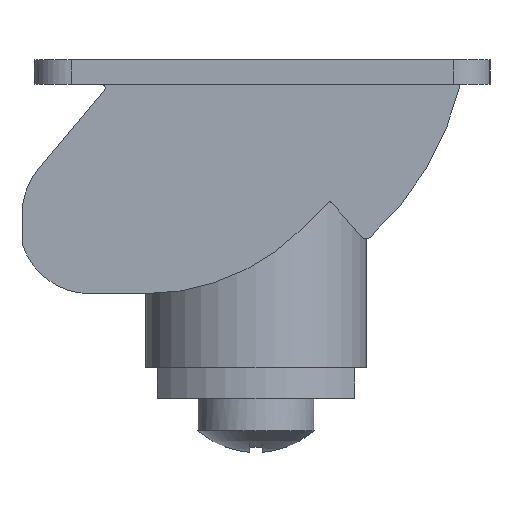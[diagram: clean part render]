
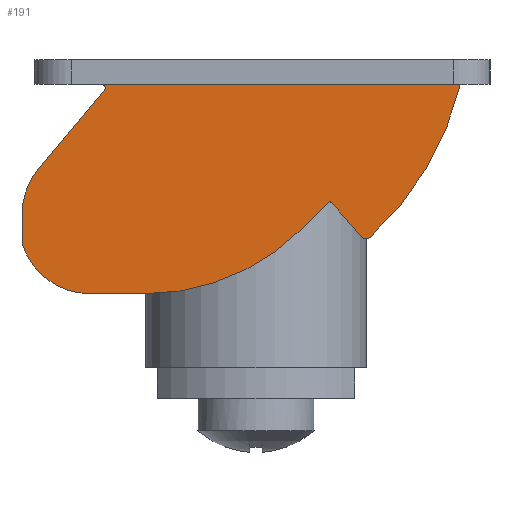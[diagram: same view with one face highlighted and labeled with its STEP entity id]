
A CAD part, left-side view. The second image highlights one B-rep face of the part: STEP entity #191.
In plain terms, the highlighted planar face has unit normal (-1, 0, 0).
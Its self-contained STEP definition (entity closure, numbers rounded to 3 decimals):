
#191 = ADVANCED_FACE( '', ( #311 ), #312, .F. );
#311 = FACE_OUTER_BOUND( '', #506, .T. );
#312 = PLANE( '', #507 );
#506 = EDGE_LOOP( '', ( #844, #845, #846, #847, #848, #849, #850, #851, #852, #853, #854, #855, #856 ) );
#507 = AXIS2_PLACEMENT_3D( '', #857, #858, #859 );
#844 = ORIENTED_EDGE( '', *, *, #1461, .F. );
#845 = ORIENTED_EDGE( '', *, *, #1462, .T. );
#846 = ORIENTED_EDGE( '', *, *, #1463, .T. );
#847 = ORIENTED_EDGE( '', *, *, #1464, .F. );
#848 = ORIENTED_EDGE( '', *, *, #1465, .F. );
#849 = ORIENTED_EDGE( '', *, *, #1466, .F. );
#850 = ORIENTED_EDGE( '', *, *, #1467, .F. );
#851 = ORIENTED_EDGE( '', *, *, #1468, .F. );
#852 = ORIENTED_EDGE( '', *, *, #1469, .F. );
#853 = ORIENTED_EDGE( '', *, *, #1470, .F. );
#854 = ORIENTED_EDGE( '', *, *, #1471, .T. );
#855 = ORIENTED_EDGE( '', *, *, #1472, .F. );
#856 = ORIENTED_EDGE( '', *, *, #1473, .F. );
#857 = CARTESIAN_POINT( '', ( -99., 7.058, 5.589 ) );
#858 = DIRECTION( '', ( 1., 0., 0. ) );
#859 = DIRECTION( '', ( 0., 0., -1. ) );
#1461 = EDGE_CURVE( '', #1754, #1755, #1756, .T. );
#1462 = EDGE_CURVE( '', #1754, #1757, #1758, .T. );
#1463 = EDGE_CURVE( '', #1757, #1759, #1760, .T. );
#1464 = EDGE_CURVE( '', #1761, #1759, #1762, .T. );
#1465 = EDGE_CURVE( '', #1763, #1761, #1764, .T. );
#1466 = EDGE_CURVE( '', #1765, #1763, #1766, .T. );
#1467 = EDGE_CURVE( '', #1767, #1765, #1768, .T. );
#1468 = EDGE_CURVE( '', #1769, #1767, #1770, .T. );
#1469 = EDGE_CURVE( '', #1771, #1769, #1772, .T. );
#1470 = EDGE_CURVE( '', #1773, #1771, #1774, .T. );
#1471 = EDGE_CURVE( '', #1773, #1775, #1776, .T. );
#1472 = EDGE_CURVE( '', #1777, #1775, #1778, .T. );
#1473 = EDGE_CURVE( '', #1755, #1777, #1779, .T. );
#1754 = VERTEX_POINT( '', #2185 );
#1755 = VERTEX_POINT( '', #2186 );
#1756 = CIRCLE( '', #2187, 24.298 );
#1757 = VERTEX_POINT( '', #2188 );
#1758 = LINE( '', #2189, #2190 );
#1759 = VERTEX_POINT( '', #2191 );
#1760 = CIRCLE( '', #2192, 0.3 );
#1761 = VERTEX_POINT( '', #2193 );
#1762 = LINE( '', #2194, #2195 );
#1763 = VERTEX_POINT( '', #2196 );
#1764 = CIRCLE( '', #2197, 5.8 );
#1765 = VERTEX_POINT( '', #2198 );
#1766 = LINE( '', #2199, #2200 );
#1767 = VERTEX_POINT( '', #2201 );
#1768 = CIRCLE( '', #2202, 5.8 );
#1769 = VERTEX_POINT( '', #2203 );
#1770 = LINE( '', #2204, #2205 );
#1771 = VERTEX_POINT( '', #2206 );
#1772 = CIRCLE( '', #2207, 18. );
#1773 = VERTEX_POINT( '', #2208 );
#1774 = LINE( '', #2209, #2210 );
#1775 = VERTEX_POINT( '', #2211 );
#1776 = CIRCLE( '', #2212, 0.2 );
#1777 = VERTEX_POINT( '', #2213 );
#1778 = LINE( '', #2214, #2215 );
#1779 = CIRCLE( '', #2216, 0.5 );
#2185 = CARTESIAN_POINT( '', ( -99., -16.589, 0. ) );
#2186 = CARTESIAN_POINT( '', ( -99., -9.265, -12.411 ) );
#2187 = AXIS2_PLACEMENT_3D( '', #2656, #2657, #2658 );
#2188 = CARTESIAN_POINT( '', ( -99., 12.552, 0. ) );
#2189 = CARTESIAN_POINT( '', ( -99., 15., 0. ) );
#2190 = VECTOR( '', #2659, 1000. );
#2191 = CARTESIAN_POINT( '', ( -99., 12.322, -0.493 ) );
#2192 = AXIS2_PLACEMENT_3D( '', #2660, #2661, #2662 );
#2193 = CARTESIAN_POINT( '', ( -99., 17.643, -6.834 ) );
#2194 = CARTESIAN_POINT( '', ( -99., 17.643, -6.834 ) );
#2195 = VECTOR( '', #2663, 1000. );
#2196 = CARTESIAN_POINT( '', ( -99., 19., -10.562 ) );
#2197 = AXIS2_PLACEMENT_3D( '', #2664, #2665, #2666 );
#2198 = CARTESIAN_POINT( '', ( -99., 19., -12.917 ) );
#2199 = CARTESIAN_POINT( '', ( -99., 19., -12.917 ) );
#2200 = VECTOR( '', #2667, 1000. );
#2201 = CARTESIAN_POINT( '', ( -99., 13.46, -17. ) );
#2202 = AXIS2_PLACEMENT_3D( '', #2668, #2669, #2670 );
#2203 = CARTESIAN_POINT( '', ( -99., 8.987, -17. ) );
#2204 = CARTESIAN_POINT( '', ( -99., 8.987, -17. ) );
#2205 = VECTOR( '', #2671, 1000. );
#2206 = CARTESIAN_POINT( '', ( -99., -3.741, -11.728 ) );
#2207 = AXIS2_PLACEMENT_3D( '', #2672, #2673, #2674 );
#2208 = CARTESIAN_POINT( '', ( -99., -5.865, -9.604 ) );
#2209 = CARTESIAN_POINT( '', ( -99., -5.865, -9.604 ) );
#2210 = VECTOR( '', #2675, 1000. );
#2211 = CARTESIAN_POINT( '', ( -99., -6.157, -9.614 ) );
#2212 = AXIS2_PLACEMENT_3D( '', #2676, #2677, #2678 );
#2213 = CARTESIAN_POINT( '', ( -99., -8.551, -12.368 ) );
#2214 = CARTESIAN_POINT( '', ( -99., -8.551, -12.368 ) );
#2215 = VECTOR( '', #2679, 1000. );
#2216 = AXIS2_PLACEMENT_3D( '', #2680, #2681, #2682 );
#2656 = CARTESIAN_POINT( '', ( -99., 7.058, 5.589 ) );
#2657 = DIRECTION( '', ( 1., 0., 0. ) );
#2658 = DIRECTION( '', ( 0., 0., -1. ) );
#2659 = DIRECTION( '', ( 0., 1., 0. ) );
#2660 = CARTESIAN_POINT( '', ( -99., 12.552, -0.3 ) );
#2661 = DIRECTION( '', ( 1., 0., 0. ) );
#2662 = DIRECTION( '', ( 0., 0., -1. ) );
#2663 = DIRECTION( '', ( 0., -0.643, 0.766 ) );
#2664 = CARTESIAN_POINT( '', ( -99., 13.2, -10.562 ) );
#2665 = DIRECTION( '', ( 1., 0., 0. ) );
#2666 = DIRECTION( '', ( 0., 0., -1. ) );
#2667 = DIRECTION( '', ( 0., 0., 1. ) );
#2668 = CARTESIAN_POINT( '', ( -99., 13.46, -11.2 ) );
#2669 = DIRECTION( '', ( 1., 0., 0. ) );
#2670 = DIRECTION( '', ( 0., 0., -1. ) );
#2671 = DIRECTION( '', ( 0., 1., 0. ) );
#2672 = CARTESIAN_POINT( '', ( -99., 8.987, 1. ) );
#2673 = DIRECTION( '', ( 1., 0., 0. ) );
#2674 = DIRECTION( '', ( 0., 0., -1. ) );
#2675 = DIRECTION( '', ( 0., 0.707, -0.707 ) );
#2676 = CARTESIAN_POINT( '', ( -99., -6.006, -9.745 ) );
#2677 = DIRECTION( '', ( 1., 0., 0. ) );
#2678 = DIRECTION( '', ( 0., 0., -1. ) );
#2679 = DIRECTION( '', ( 0., 0.656, 0.755 ) );
#2680 = CARTESIAN_POINT( '', ( -99., -8.929, -12.04 ) );
#2681 = DIRECTION( '', ( 1., 0., 0. ) );
#2682 = DIRECTION( '', ( 0., 0., -1. ) );
